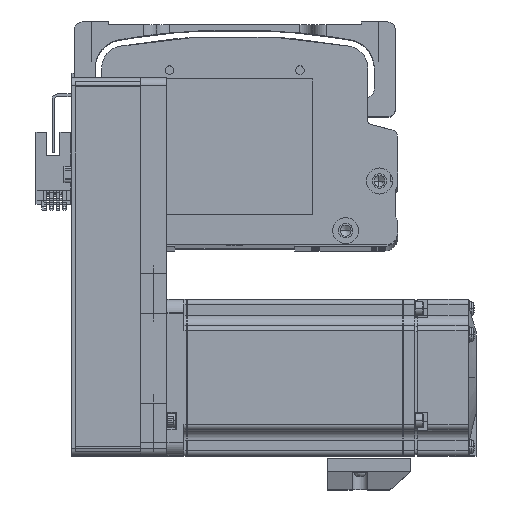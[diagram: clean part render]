
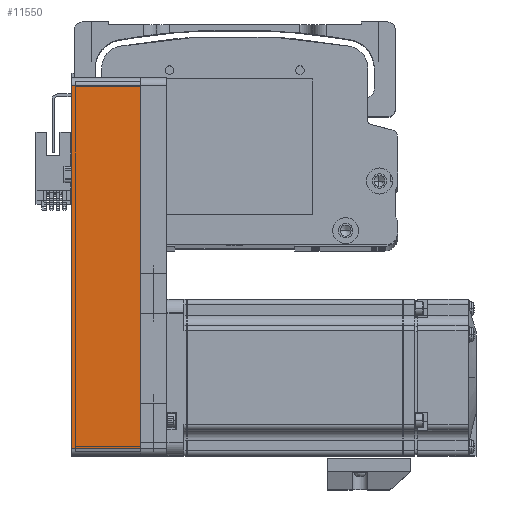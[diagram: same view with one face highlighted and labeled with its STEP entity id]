
A CAD part, top view. The second image highlights one B-rep face of the part: STEP entity #11550.
In plain terms, the highlighted planar face has unit normal (0, 0, 1) as drawn and (0, 1, 0) by its records, which use the part's own axes.
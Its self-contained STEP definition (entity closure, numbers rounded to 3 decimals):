
#2737 = ORIENTED_EDGE ( 'NONE', *, *, #13039, .F. ) ;
#3761 = VERTEX_POINT ( 'NONE', #52006 ) ;
#6065 = VECTOR ( 'NONE', #65853, 1000. ) ;
#7561 = EDGE_CURVE ( 'NONE', #16496, #35976, #84150, .T. ) ;
#8947 = DIRECTION ( 'NONE',  ( -1., 0., 0. ) ) ;
#11550 = ADVANCED_FACE ( 'NONE', ( #40370 ), #46592, .F. ) ;
#12815 = ORIENTED_EDGE ( 'NONE', *, *, #7561, .T. ) ;
#13039 = EDGE_CURVE ( 'NONE', #16496, #62350, #27704, .T. ) ;
#14421 = DIRECTION ( 'NONE',  ( 0., -1., 0. ) ) ;
#16496 = VERTEX_POINT ( 'NONE', #60295 ) ;
#26028 = ORIENTED_EDGE ( 'NONE', *, *, #51340, .T. ) ;
#27704 = LINE ( 'NONE', #61037, #60237 ) ;
#32243 = VECTOR ( 'NONE', #71672, 1000. ) ;
#33540 = VECTOR ( 'NONE', #68628, 1000. ) ;
#34849 = CARTESIAN_POINT ( 'NONE',  ( -69.5, 30., 26.5 ) ) ;
#35976 = VERTEX_POINT ( 'NONE', #40313 ) ;
#36247 = CARTESIAN_POINT ( 'NONE',  ( -69.5, 30., 26.5 ) ) ;
#40313 = CARTESIAN_POINT ( 'NONE',  ( 69.5, 30., 0. ) ) ;
#40370 = FACE_OUTER_BOUND ( 'NONE', #64722, .T. ) ;
#41948 = ORIENTED_EDGE ( 'NONE', *, *, #75862, .T. ) ;
#46592 = PLANE ( 'NONE',  #76187 ) ;
#51340 = EDGE_CURVE ( 'NONE', #35976, #3761, #75323, .T. ) ;
#52006 = CARTESIAN_POINT ( 'NONE',  ( -69.5, 30., 0. ) ) ;
#53406 = CARTESIAN_POINT ( 'NONE',  ( 72.5, 30., 26.5 ) ) ;
#59308 = CARTESIAN_POINT ( 'NONE',  ( 72.5, 30., 0. ) ) ;
#59959 = DIRECTION ( 'NONE',  ( 1., 0., 0. ) ) ;
#60237 = VECTOR ( 'NONE', #8947, 1000. ) ;
#60295 = CARTESIAN_POINT ( 'NONE',  ( 69.5, 30., 26.5 ) ) ;
#61037 = CARTESIAN_POINT ( 'NONE',  ( 72.5, 30., 26.5 ) ) ;
#62350 = VERTEX_POINT ( 'NONE', #34849 ) ;
#64722 = EDGE_LOOP ( 'NONE', ( #26028, #41948, #2737, #12815 ) ) ;
#65185 = CARTESIAN_POINT ( 'NONE',  ( 69.5, 30., 26.5 ) ) ;
#65853 = DIRECTION ( 'NONE',  ( -1., 0., 0. ) ) ;
#68628 = DIRECTION ( 'NONE',  ( 0., 0., 1. ) ) ;
#71672 = DIRECTION ( 'NONE',  ( 0., 0., -1. ) ) ;
#72142 = LINE ( 'NONE', #36247, #33540 ) ;
#75323 = LINE ( 'NONE', #59308, #6065 ) ;
#75862 = EDGE_CURVE ( 'NONE', #3761, #62350, #72142, .T. ) ;
#76187 = AXIS2_PLACEMENT_3D ( 'NONE', #53406, #14421, #59959 ) ;
#84150 = LINE ( 'NONE', #65185, #32243 ) ;
